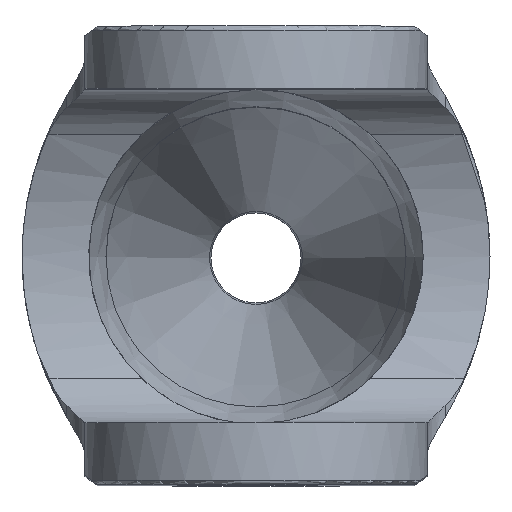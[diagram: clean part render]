
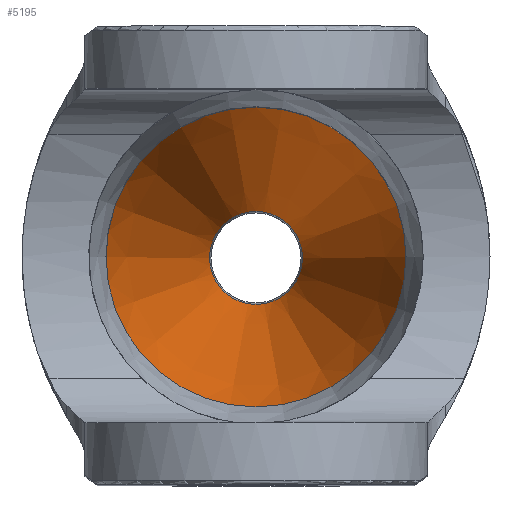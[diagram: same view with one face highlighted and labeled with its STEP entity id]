
A CAD part, top view. The second image highlights one B-rep face of the part: STEP entity #5195.
In plain terms, the highlighted conical face has half-angle 15 degrees and reference radius 22.92 mm.
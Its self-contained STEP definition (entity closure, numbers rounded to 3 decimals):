
#856=FACE_OUTER_BOUND('',#1164,.T.);
#1164=EDGE_LOOP('',(#4889,#4890,#4891,#4892));
#1706=LINE('',#8981,#2248);
#2248=VECTOR('',#6617,22.92);
#2295=CIRCLE('',#5503,10.841);
#2297=CIRCLE('',#5506,35.);
#2766=VERTEX_POINT('',#8976);
#2767=VERTEX_POINT('',#8980);
#3475=EDGE_CURVE('',#2766,#2766,#2295,.T.);
#3477=EDGE_CURVE('',#2766,#2767,#1706,.T.);
#3478=EDGE_CURVE('',#2767,#2767,#2297,.T.);
#4889=ORIENTED_EDGE('',*,*,#3475,.T.);
#4890=ORIENTED_EDGE('',*,*,#3477,.T.);
#4891=ORIENTED_EDGE('',*,*,#3478,.F.);
#4892=ORIENTED_EDGE('',*,*,#3477,.F.);
#4923=CONICAL_SURFACE('',#5505,22.92,0.262);
#5195=ADVANCED_FACE('',(#856),#4923,.F.);
#5503=AXIS2_PLACEMENT_3D('',#8977,#6611,#6612);
#5505=AXIS2_PLACEMENT_3D('',#8979,#6615,#6616);
#5506=AXIS2_PLACEMENT_3D('',#8982,#6618,#6619);
#6611=DIRECTION('center_axis',(0.,0.,-1.));
#6612=DIRECTION('ref_axis',(-1.,0.,0.));
#6615=DIRECTION('center_axis',(0.,0.,1.));
#6616=DIRECTION('ref_axis',(-1.,0.,0.));
#6617=DIRECTION('',(0.259,0.,0.966));
#6618=DIRECTION('center_axis',(0.,0.,-1.));
#6619=DIRECTION('ref_axis',(-1.,0.,0.));
#8976=CARTESIAN_POINT('',(10.841,0.,-118.728));
#8977=CARTESIAN_POINT('Origin',(0.,0.,-118.728));
#8979=CARTESIAN_POINT('Origin',(0.,0.,-73.647));
#8980=CARTESIAN_POINT('',(35.,0.,-28.565));
#8981=CARTESIAN_POINT('',(22.92,0.,-73.647));
#8982=CARTESIAN_POINT('Origin',(0.,0.,-28.565));
